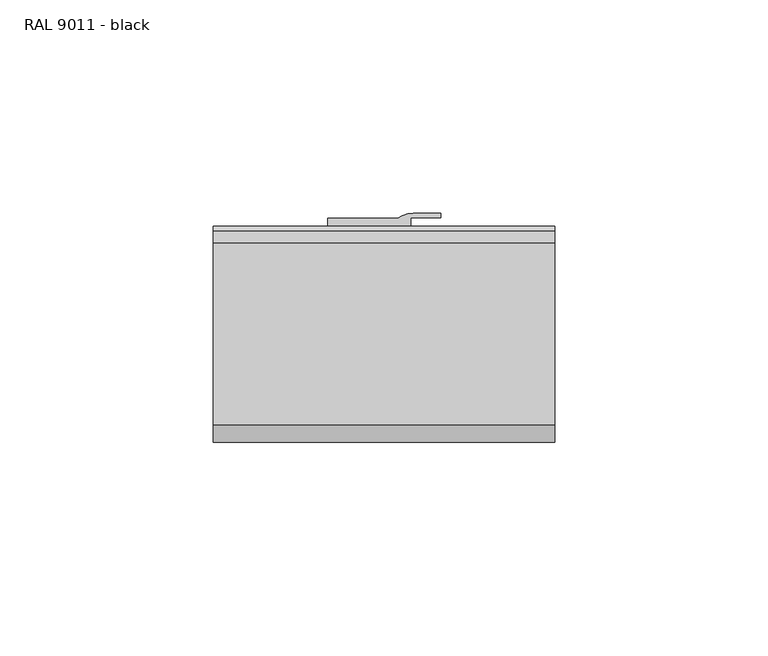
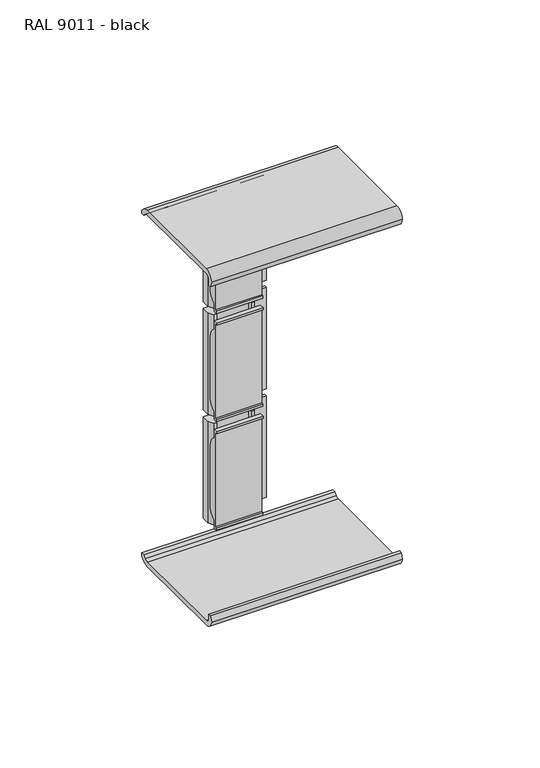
"""IFC4 building model written with IfcOpenShell, lengths in millimetres: cable carrier fitting geometry, Electrical_Installations_Hager_GBA-Coupling-Piece : RAL 9011 - black."""

from ifc_helpers import new_model, si_unit, point, frame, frame_2d, origin, place, context, project, spatial, polyline, circle_curve, trimmed, segment, composite_curve, outline, extrude, source, transform, mapped, element, save


def ral_9011_black_7d60d0b3(model_context):
    return source(origin(), model_context, "Body", "SweptSolid", [
        extrude(outline(composite_curve([segment(polyline([(19.5299546, -26.953699), (19.5299546, -26.153699), (21.5299546, -26.153699), (21.5299546, -30.0774443)]), True, "CONTINUOUS"), segment(trimmed(circle_curve(frame_2d((18.0575569, -35.1474122)), 6.1450891), [point((21.5299546, -30.0774443))], [point((24.1862046, -34.6981933))], False, "CARTESIAN"), True, "CONTINUOUS"), segment(polyline([(24.1862046, -34.6981933), (24.1862046, -61.7833404)]), True, "CONTINUOUS"), segment(trimmed(circle_curve(frame_2d((19.0558691, -61.7833404)), 5.1303355), [point((24.1862046, -61.7833404))], [point((21.5299546, -66.2776972))], False, "CARTESIAN"), True, "CONTINUOUS"), segment(polyline([(21.5299546, -66.2776972), (21.5299546, -69.994324), (19.763323, -69.994324), (19.763323, -68.9891379), (20.7299546, -68.9891379), (20.7299546, -26.953699), (19.5299546, -26.953699)]), True, "CONTINUOUS")], self_intersect=False)), frame((-0.7125, 0.0, 0.0), z_axis=(1.0, 0.0, 0.0), x_axis=(0.0, 1.0, 0.0)), (0.0, 0.0, 1.0), 19.5),
        extrude(outline(composite_curve([segment(polyline([(-0.7125, 29.3862046), (15.6888516, 29.3862046)]), True, "CONTINUOUS"), segment(trimmed(circle_curve(frame_2d((19.3875, 24.2862046)), 6.3), [point((15.6888516, 29.3862046))], [point((19.3875, 30.5862046))], False, "CARTESIAN"), True, "CONTINUOUS"), segment(polyline([(19.3875, 30.5862046), (25.7875, 30.5862046), (25.7875, 29.5862046), (18.7875, 29.5862046), (18.7875, 26.0862046), (17.5173294, 23.8862046), (16.234474, 23.8862046), (16.234474, 26.0862046), (1.791584, 26.0862046), (1.791584, 23.8862046), (0.5576706, 23.8862046), (-0.7125, 26.0862046), (-0.7125, 29.3862046)]), True, "CONTINUOUS")], self_intersect=False)), frame((0.0, 0.0, -70.531824), z_axis=(0.0, 0.0, 1.0), x_axis=(1.0, 0.0, 0.0)), (0.0, 0.0, 1.0), 45.0),
        extrude(outline(composite_curve([segment(polyline([(19.5299546, 69.209949), (19.5299546, 70.009949), (21.5299546, 70.009949), (21.5299546, 66.0862036)]), True, "CONTINUOUS"), segment(trimmed(circle_curve(frame_2d((18.0575569, 61.0162357)), 6.1450891), [point((21.5299546, 66.0862036))], [point((24.1862046, 61.4654546))], False, "CARTESIAN"), True, "CONTINUOUS"), segment(polyline([(24.1862046, 61.4654546), (24.1862046, 34.3803075)]), True, "CONTINUOUS"), segment(trimmed(circle_curve(frame_2d((19.0558691, 34.3803075)), 5.1303355), [point((24.1862046, 34.3803075))], [point((21.5299546, 29.8859507))], False, "CARTESIAN"), True, "CONTINUOUS"), segment(polyline([(21.5299546, 29.8859507), (21.5299546, 26.169324), (19.763323, 26.169324), (19.763323, 27.17451), (20.7299546, 27.17451), (20.7299546, 69.209949), (19.5299546, 69.209949)]), True, "CONTINUOUS")], self_intersect=False)), frame((-0.7125, 0.0, 0.0), z_axis=(1.0, 0.0, 0.0), x_axis=(0.0, 1.0, 0.0)), (0.0, 0.0, 1.0), 19.5),
        extrude(outline(composite_curve([segment(polyline([(-0.7125, 29.3862046), (15.6888516, 29.3862046)]), True, "CONTINUOUS"), segment(trimmed(circle_curve(frame_2d((19.3875, 24.2862046)), 6.3), [point((15.6888516, 29.3862046))], [point((19.3875, 30.5862046))], False, "CARTESIAN"), True, "CONTINUOUS"), segment(polyline([(19.3875, 30.5862046), (25.7875, 30.5862046), (25.7875, 29.5862046), (18.7875, 29.5862046), (18.7875, 26.0862046), (17.5173294, 23.8862046), (16.234474, 23.8862046), (16.234474, 26.0862046), (1.791584, 26.0862046), (1.791584, 23.8862046), (0.5576706, 23.8862046), (-0.7125, 26.0862046), (-0.7125, 29.3862046)]), True, "CONTINUOUS")], self_intersect=False)), frame((0.0, 0.0, 25.631824), z_axis=(0.0, 0.0, 1.0), x_axis=(1.0, 0.0, 0.0)), (0.0, 0.0, 1.0), 45.0),
        extrude(outline(composite_curve([segment(polyline([(19.5299546, 21.178125), (19.5299546, 21.978125), (21.5299546, 21.978125), (21.5299546, 18.0543796)]), True, "CONTINUOUS"), segment(trimmed(circle_curve(frame_2d((18.0575569, 12.9844117)), 6.1450891), [point((21.5299546, 18.0543796))], [point((24.1862046, 13.4336306))], False, "CARTESIAN"), True, "CONTINUOUS"), segment(polyline([(24.1862046, 13.4336306), (24.1862046, -13.6515165)]), True, "CONTINUOUS"), segment(trimmed(circle_curve(frame_2d((19.0558691, -13.6515165)), 5.1303355), [point((24.1862046, -13.6515165))], [point((21.5299546, -18.1458733))], False, "CARTESIAN"), True, "CONTINUOUS"), segment(polyline([(21.5299546, -18.1458733), (21.5299546, -21.8625), (19.763323, -21.8625), (19.763323, -20.857314), (20.7299546, -20.857314), (20.7299546, 21.178125), (19.5299546, 21.178125)]), True, "CONTINUOUS")], self_intersect=False)), frame((-0.7125, 0.0, 0.0), z_axis=(1.0, 0.0, 0.0), x_axis=(0.0, 1.0, 0.0)), (0.0, 0.0, 1.0), 19.5),
        extrude(outline(composite_curve([segment(polyline([(-0.7125, 29.3862046), (15.6888516, 29.3862046)]), True, "CONTINUOUS"), segment(trimmed(circle_curve(frame_2d((19.3875, 24.2862046)), 6.3), [point((15.6888516, 29.3862046))], [point((19.3875, 30.5862046))], False, "CARTESIAN"), True, "CONTINUOUS"), segment(polyline([(19.3875, 30.5862046), (25.7875, 30.5862046), (25.7875, 29.5862046), (18.7875, 29.5862046), (18.7875, 26.0862046), (17.5173294, 23.8862046), (16.234474, 23.8862046), (16.234474, 26.0862046), (1.791584, 26.0862046), (1.791584, 23.8862046), (0.5576706, 23.8862046), (-0.7125, 26.0862046), (-0.7125, 29.3862046)]), True, "CONTINUOUS")], self_intersect=False)), frame((0.0, 0.0, -22.4), z_axis=(0.0, 0.0, 1.0), x_axis=(1.0, 0.0, 0.0)), (0.0, 0.0, 1.0), 45.0),
        extrude(outline(composite_curve([segment(trimmed(circle_curve(frame_2d((23.5218294, 74.95)), 2.0), [point((24.936043, 76.3642136))], [point((23.5218294, 76.95))], True, "CARTESIAN"), True, "CONTINUOUS"), segment(polyline([(23.5218294, 76.95), (-19.1007768, 76.95)]), True, "CONTINUOUS"), segment(trimmed(circle_curve(frame_2d((-19.1007768, 74.9471035)), 2.0028965), [point((-19.1007768, 76.95))], [point((-21.1036733, 74.9471035))], True, "CARTESIAN"), True, "CONTINUOUS"), segment(polyline([(-21.1036733, 74.9471035), (-21.2133917, 72.8535509), (-22.3130457, 72.9111813), (-23.0757368, 75.3659668)]), True, "CONTINUOUS"), segment(trimmed(circle_curve(frame_2d((-19.1163293, 74.970935)), 3.979065), [point((-23.0757368, 75.3659668))], [point((-19.1163293, 78.95))], False, "CARTESIAN"), True, "CONTINUOUS"), segment(polyline([(-19.1163293, 78.95), (23.5218294, 78.95)]), True, "CONTINUOUS"), segment(trimmed(circle_curve(frame_2d((23.5218294, 74.95)), 4.0), [point((23.5218294, 78.95))], [point((26.3502565, 77.7784271))], False, "CARTESIAN"), True, "CONTINUOUS"), segment(polyline([(26.3502565, 77.7784271), (27.5502565, 76.5784271), (27.5502565, 75.25), (26.0502565, 75.25), (24.936043, 76.3642136)]), True, "CONTINUOUS")], self_intersect=False)), frame((-27.5, 0.0, 0.0), z_axis=(1.0, 0.0, 0.0), x_axis=(0.0, 1.0, 0.0)), (0.0, 0.0, 1.0), 80.0),
        extrude(outline(composite_curve([segment(polyline([(24.936043, -76.3642136), (26.0502565, -75.25), (27.5502565, -75.25), (27.5502565, -76.5784271), (26.3502565, -77.7784271)]), True, "CONTINUOUS"), segment(trimmed(circle_curve(frame_2d((23.5218294, -74.95)), 4.0), [point((26.3502565, -77.7784271))], [point((23.5218294, -78.95))], False, "CARTESIAN"), True, "CONTINUOUS"), segment(polyline([(23.5218294, -78.95), (-19.1163293, -78.95)]), True, "CONTINUOUS"), segment(trimmed(circle_curve(frame_2d((-19.1163293, -74.970935)), 3.979065), [point((-19.1163293, -78.95))], [point((-23.0757368, -75.3659668))], False, "CARTESIAN"), True, "CONTINUOUS"), segment(polyline([(-23.0757368, -75.3659668), (-22.3130457, -72.9111813), (-21.2133917, -72.8535509), (-21.1036733, -74.9471035)]), True, "CONTINUOUS"), segment(trimmed(circle_curve(frame_2d((-19.1007768, -74.9471035)), 2.0028965), [point((-21.1036733, -74.9471035))], [point((-19.1007768, -76.95))], True, "CARTESIAN"), True, "CONTINUOUS"), segment(polyline([(-19.1007768, -76.95), (23.5218294, -76.95)]), True, "CONTINUOUS"), segment(trimmed(circle_curve(frame_2d((23.5218294, -74.95)), 2.0), [point((23.5218294, -76.95))], [point((24.936043, -76.3642136))], True, "CARTESIAN"), True, "CONTINUOUS")], self_intersect=False)), frame((-27.5, 0.0, 0.0), z_axis=(1.0, 0.0, 0.0), x_axis=(0.0, 1.0, 0.0)), (0.0, 0.0, 1.0), 80.0),
    ])


if __name__ == "__main__":
    model = new_model("IFC4")
    model_context = context("Model", 3, world=origin())
    ifc_project = project(units=[si_unit("LENGTHUNIT", "METRE", prefix="MILLI")], contexts=[model_context])
    site = spatial("IfcSite", under=ifc_project)
    building = spatial("IfcBuilding", under=site)
    placement = place(None, origin())
    ral_9011_black_shape = ral_9011_black_7d60d0b3(model_context)
    element("IfcCableCarrierFitting", 1, ObjectType="Electrical_Installations_Hager_GBA-Coupling-Piece : RAL 9011 - black", at=placement, inside=building, context=model_context, shape_type="MappedRepresentation", body=[
        mapped(ral_9011_black_shape, transform((0.0, 0.0, 0.0), x_axis=(1.0, 0.0, 0.0), y_axis=(0.0, 1.0, 0.0), z_axis=(0.0, 0.0, 1.0))),
    ])
    save(model, "model.ifc")
